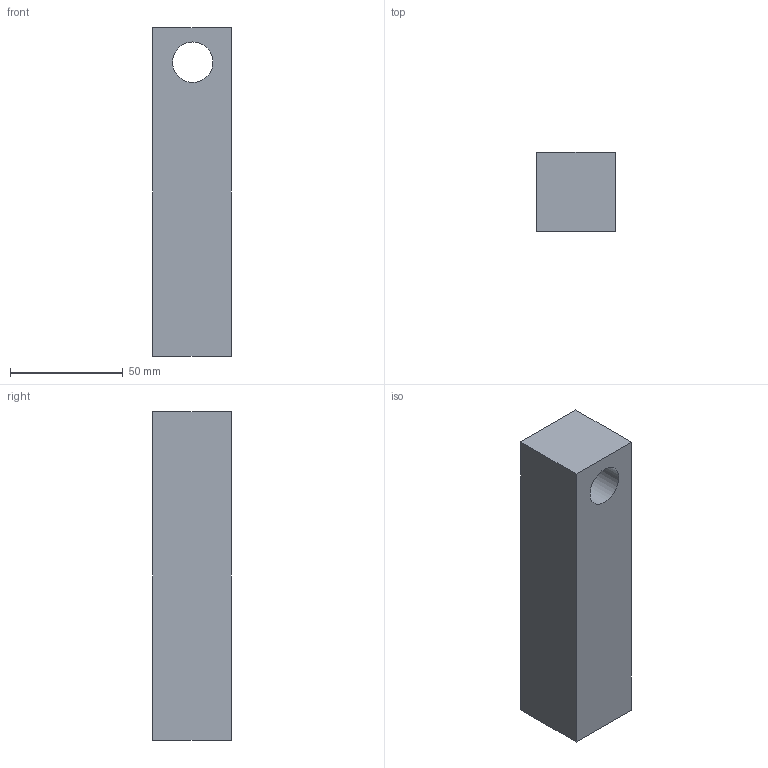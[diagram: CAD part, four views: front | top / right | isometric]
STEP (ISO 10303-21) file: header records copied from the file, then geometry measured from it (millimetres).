
FILE_DESCRIPTION(/* description */ ('STEP AP242 Edition 2','CAx-IF Rec.Pracs.---Representation and Presentation of Product Manufacturing Information (PMI)---4.0---2014-10-13','CAx-IF Rec.Pracs.---3D Tessellated Geometry---0.4---2014-09-14','2;1','CAx-IF Rec.Pracs.---User Defined Attributes---1.5---2016-08-15'),/* implementation_level */ '2;1');
FILE_NAME(/* name */ 'Part Studio 1 - Part 17',/* time_stamp */ '2026-10-19T00:09:51Z',/* author */ (''),/* organization */ (''),/* preprocessor_version */ 'ST-DEVELOPER v20',/* originating_system */ 'ONSHAPE BY PTC INC, 1.222',/* authorisation */ ' ');
FILE_SCHEMA (('AP242_MANAGED_MODEL_BASED_3D_ENGINEERING_MIM_LF { 1 0 10303 442 3 1 4 }'));
Length unit declared in the file: metre
Products named in the file (1): Part 17
Bounding box: 34.68 x 35 x 145.73 mm (x, y, z)
Volume: 167978 mm3; surface area: 24206.8 mm2
Topology: 1 solids, 1 shells, 7 faces, 15 edges, 10 vertices
Faces by surface type: plane 6, cylinder 1
Full cylindrical faces by diameter (mm): 18 x1
Entity records: 212 total; most frequent: DIRECTION 32, CARTESIAN_POINT 32, ORIENTED_EDGE 28, EDGE_CURVE 14, LINE 12, VECTOR 12, VERTEX_POINT 10, EDGE_LOOP 10
